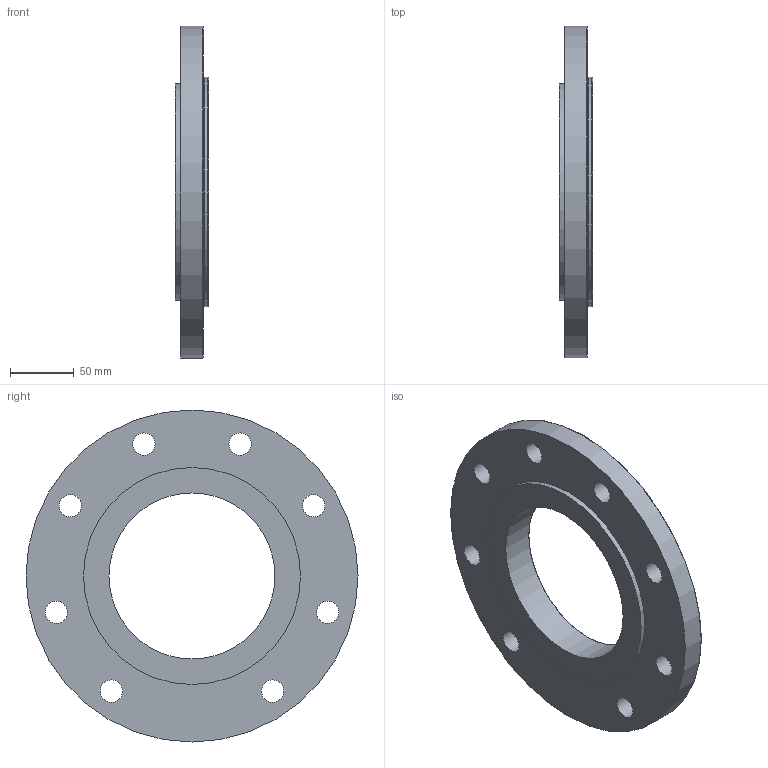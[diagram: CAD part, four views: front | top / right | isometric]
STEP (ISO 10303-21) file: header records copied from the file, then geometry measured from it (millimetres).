
FILE_DESCRIPTION((''),'2;1');
FILE_NAME('D:\PAWEŁ\ZLECENIA\2011 DualSystem\001 Modele\DKAB90_\DK_90_STEP\AZ_90.stp','2012-05-14T22:36:13',('admin'),(''),'Autodesk Inventor 2009','Autodesk Inventor 2009','');
FILE_SCHEMA(('AUTOMOTIVE_DESIGN { 1 0 10303 214 1 1 1 1 }'));
Length unit declared in the file: millimetre
Products named in the file (1): AZ_90
Bounding box: 26 x 260 x 260 mm (x, y, z)
Volume: 768419.1 mm3; surface area: 112919.5 mm2
Topology: 1 solids, 1 shells, 20 faces, 52 edges, 36 vertices
Faces by surface type: bspline 9, cylinder 4, plane 4, torus 3
Full cylindrical faces by diameter (mm): 130 x1, 170 x1, 180 x1, 260 x1
Entity records: 690 total; most frequent: CARTESIAN_POINT 257, DIRECTION 80, ORIENTED_EDGE 56, EDGE_LOOP 56, AXIS2_PLACEMENT_3D 40, FACE_BOUND 36, VERTEX_POINT 28, CIRCLE 28
